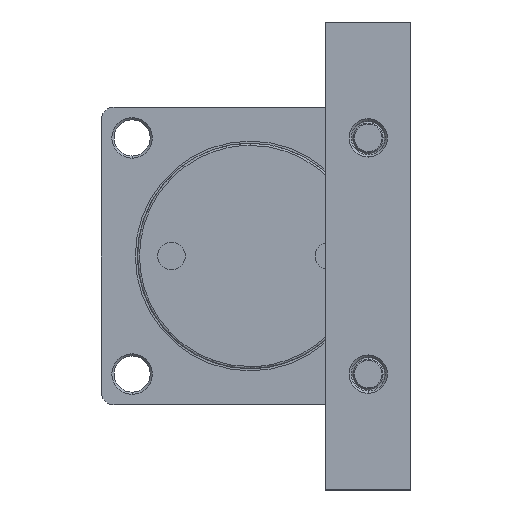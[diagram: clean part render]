
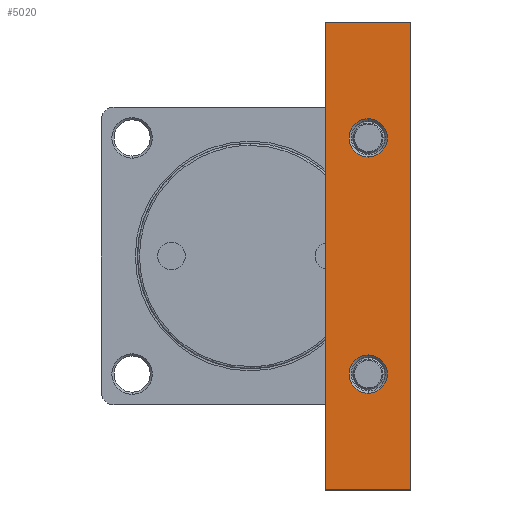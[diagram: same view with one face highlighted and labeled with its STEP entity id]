
A CAD part, left-side view. The second image highlights one B-rep face of the part: STEP entity #5020.
In plain terms, the highlighted planar face has unit normal (1, 0, 0).
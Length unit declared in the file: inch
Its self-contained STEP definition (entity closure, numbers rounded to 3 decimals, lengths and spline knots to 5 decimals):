
#150 = DIRECTION ( 'NONE',  ( 1., 0., 0. ) ) ;
#434 = DIRECTION ( 'NONE',  ( 0., 0., 1. ) ) ;
#450 = DIRECTION ( 'NONE',  ( -1., 0., 0. ) ) ;
#460 = CARTESIAN_POINT ( 'NONE',  ( -2.61811, -2.18504, -2.18504 ) ) ;
#507 = VERTEX_POINT ( 'NONE', #10206 ) ;
#593 = LINE ( 'NONE', #5528, #665 ) ;
#665 = VECTOR ( 'NONE', #5463, 39.37008 ) ;
#726 = ORIENTED_EDGE ( 'NONE', *, *, #1733, .T. ) ;
#1208 = VERTEX_POINT ( 'NONE', #12112 ) ;
#1664 = CARTESIAN_POINT ( 'NONE',  ( -2.61811, -2.18504, 2.53937 ) ) ;
#1733 = EDGE_CURVE ( 'NONE', #10541, #7464, #593, .T. ) ;
#2047 = ORIENTED_EDGE ( 'NONE', *, *, #12837, .T. ) ;
#2097 = EDGE_LOOP ( 'NONE', ( #9232, #3739, #726, #6526 ) ) ;
#2673 = DIRECTION ( 'NONE',  ( 0., 0., 1. ) ) ;
#2693 = DIRECTION ( 'NONE',  ( -1., 0., 0. ) ) ;
#2702 = CARTESIAN_POINT ( 'NONE',  ( -2.61811, -2.18504, 2.18504 ) ) ;
#2849 = VERTEX_POINT ( 'NONE', #8949 ) ;
#2852 = CARTESIAN_POINT ( 'NONE',  ( -2.61811, -1.39764, 4.33071 ) ) ;
#3367 = ORIENTED_EDGE ( 'NONE', *, *, #12685, .T. ) ;
#3536 = VECTOR ( 'NONE', #11609, 39.37008 ) ;
#3544 = LINE ( 'NONE', #11581, #3536 ) ;
#3739 = ORIENTED_EDGE ( 'NONE', *, *, #9971, .T. ) ;
#4303 = EDGE_LOOP ( 'NONE', ( #4401, #2047 ) ) ;
#4401 = ORIENTED_EDGE ( 'NONE', *, *, #10234, .T. ) ;
#4976 = VERTEX_POINT ( 'NONE', #8242 ) ;
#5020 = ADVANCED_FACE ( 'NONE', ( #7504, #6811, #6708 ), #12814, .T. ) ;
#5326 = AXIS2_PLACEMENT_3D ( 'NONE', #8230, #8221, #8205 ) ;
#5463 = DIRECTION ( 'NONE',  ( 0., 0., -1. ) ) ;
#5501 = CARTESIAN_POINT ( 'NONE',  ( -2.61811, -2.97244, 4.33071 ) ) ;
#5528 = CARTESIAN_POINT ( 'NONE',  ( -2.61811, -2.97244, 4.33071 ) ) ;
#5900 = EDGE_LOOP ( 'NONE', ( #12518, #3367 ) ) ;
#6526 = ORIENTED_EDGE ( 'NONE', *, *, #11256, .T. ) ;
#6708 = FACE_BOUND ( 'NONE', #4303, .T. ) ;
#6811 = FACE_BOUND ( 'NONE', #5900, .T. ) ;
#6862 = EDGE_CURVE ( 'NONE', #4976, #9327, #3544, .T. ) ;
#7089 = AXIS2_PLACEMENT_3D ( 'NONE', #12757, #12743, #12739 ) ;
#7107 = LINE ( 'NONE', #10941, #7991 ) ;
#7324 = AXIS2_PLACEMENT_3D ( 'NONE', #12436, #150, #9514 ) ;
#7344 = CIRCLE ( 'NONE', #9402, 0.35433 ) ;
#7464 = VERTEX_POINT ( 'NONE', #9263 ) ;
#7504 = FACE_OUTER_BOUND ( 'NONE', #2097, .T. ) ;
#7991 = VECTOR ( 'NONE', #10793, 39.37008 ) ;
#8205 = DIRECTION ( 'NONE',  ( 0., 0., 1. ) ) ;
#8221 = DIRECTION ( 'NONE',  ( -1., 0., 0. ) ) ;
#8230 = CARTESIAN_POINT ( 'NONE',  ( -2.61811, -2.18504, -2.18504 ) ) ;
#8242 = CARTESIAN_POINT ( 'NONE',  ( -2.61811, -1.39764, -4.33071 ) ) ;
#8317 = VERTEX_POINT ( 'NONE', #1664 ) ;
#8949 = CARTESIAN_POINT ( 'NONE',  ( -2.61811, -2.18504, -1.83071 ) ) ;
#9232 = ORIENTED_EDGE ( 'NONE', *, *, #6862, .T. ) ;
#9263 = CARTESIAN_POINT ( 'NONE',  ( -2.61811, -2.97244, -4.33071 ) ) ;
#9327 = VERTEX_POINT ( 'NONE', #2852 ) ;
#9402 = AXIS2_PLACEMENT_3D ( 'NONE', #460, #450, #434 ) ;
#9424 = CIRCLE ( 'NONE', #9655, 0.35433 ) ;
#9514 = DIRECTION ( 'NONE',  ( 0., 0., -1. ) ) ;
#9655 = AXIS2_PLACEMENT_3D ( 'NONE', #2702, #2693, #2673 ) ;
#9728 = EDGE_CURVE ( 'NONE', #8317, #507, #11309, .T. ) ;
#9971 = EDGE_CURVE ( 'NONE', #9327, #10541, #11660, .T. ) ;
#10206 = CARTESIAN_POINT ( 'NONE',  ( -2.61811, -2.18504, 1.83071 ) ) ;
#10234 = EDGE_CURVE ( 'NONE', #2849, #1208, #12252, .T. ) ;
#10541 = VERTEX_POINT ( 'NONE', #5501 ) ;
#10793 = DIRECTION ( 'NONE',  ( 0., 1., 0. ) ) ;
#10941 = CARTESIAN_POINT ( 'NONE',  ( -2.61811, -2.97244, -4.33071 ) ) ;
#11256 = EDGE_CURVE ( 'NONE', #7464, #4976, #7107, .T. ) ;
#11309 = CIRCLE ( 'NONE', #7089, 0.35433 ) ;
#11490 = DIRECTION ( 'NONE',  ( 0., -1., 0. ) ) ;
#11523 = CARTESIAN_POINT ( 'NONE',  ( -2.61811, -2.97244, 4.33071 ) ) ;
#11581 = CARTESIAN_POINT ( 'NONE',  ( -2.61811, -1.39764, 4.33071 ) ) ;
#11609 = DIRECTION ( 'NONE',  ( 0., 0., 1. ) ) ;
#11660 = LINE ( 'NONE', #11523, #11708 ) ;
#11708 = VECTOR ( 'NONE', #11490, 39.37008 ) ;
#12112 = CARTESIAN_POINT ( 'NONE',  ( -2.61811, -2.18504, -2.53937 ) ) ;
#12252 = CIRCLE ( 'NONE', #5326, 0.35433 ) ;
#12436 = CARTESIAN_POINT ( 'NONE',  ( -2.61811, -2.97244, 4.33071 ) ) ;
#12518 = ORIENTED_EDGE ( 'NONE', *, *, #9728, .T. ) ;
#12685 = EDGE_CURVE ( 'NONE', #507, #8317, #9424, .T. ) ;
#12739 = DIRECTION ( 'NONE',  ( 0., 0., 1. ) ) ;
#12743 = DIRECTION ( 'NONE',  ( -1., 0., 0. ) ) ;
#12757 = CARTESIAN_POINT ( 'NONE',  ( -2.61811, -2.18504, 2.18504 ) ) ;
#12814 = PLANE ( 'NONE',  #7324 ) ;
#12837 = EDGE_CURVE ( 'NONE', #1208, #2849, #7344, .T. ) ;
